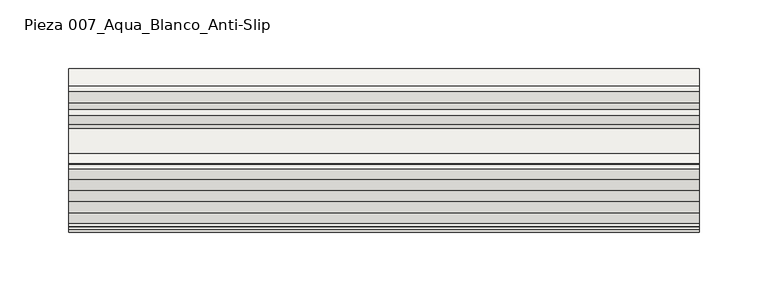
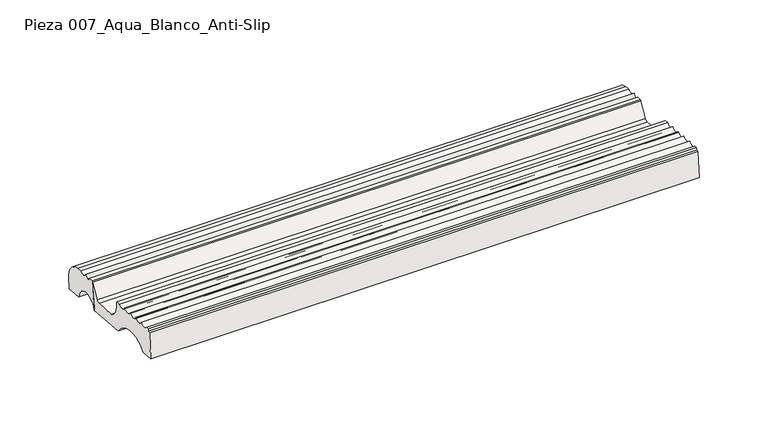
"""IFC4 building model written with IfcOpenShell, lengths in millimetres: slab geometry, ROSA GRES_007 : Pieza 007_Aqua_Blanco_Anti-Slip."""

from ifc_helpers import new_model, si_unit, point, frame, frame_2d, origin, place, context, project, spatial, polyline, circle_curve, trimmed, segment, composite_curve, outline, extrude, source, transform, mapped, element, save


def pieza_007_aqua_blanco_anti_slip_305f16b2(model_context):
    return source(origin(), model_context, "Body", "SweptSolid", [
        extrude(outline(composite_curve([segment(trimmed(circle_curve(frame_2d((-25.9545763, 173.0767428)), 11.6464304), [point((-14.3742659, 174.3159971))], [point((-37.1820416, 176.172444))], True, "CARTESIAN"), True, "CONTINUOUS"), segment(polyline([(-37.1820416, 176.172444), (-33.8762309, 200.4746837), (-29.9345538, 200.1538709)]), True, "CONTINUOUS"), segment(trimmed(circle_curve(frame_2d((-27.3971937, 201.142641)), 2.7232081), [point((-29.9345538, 200.1538709))], [point((-24.7247274, 200.6193952))], True, "CARTESIAN"), True, "CONTINUOUS"), segment(trimmed(circle_curve(frame_2d((-20.3008643, 202.7650351)), 4.9167404), [point((-24.7247274, 200.6193952))], [point((-16.9364731, 199.1796191))], True, "CARTESIAN"), True, "CONTINUOUS"), segment(polyline([(-16.9364731, 199.1796191), (-12.7748841, 198.875801)]), True, "CONTINUOUS"), segment(trimmed(circle_curve(frame_2d((-15.1536138, 183.7870899)), 15.2750633), [point((-12.7748841, 198.875801))], [point((0.0710994, 182.547869))], False, "CARTESIAN"), True, "CONTINUOUS"), segment(polyline([(0.0710994, 182.547869), (-0.6896004, 173.202129), (-14.3742659, 174.3159971)]), True, "CONTINUOUS")], self_intersect=False)), frame((0.0, 0.0, 0.0), z_axis=(1.0, 0.0, 0.0), x_axis=(0.0, 1.0, 0.0)), (0.0, 0.0, 1.0), 460.0),
        extrude(outline(composite_curve([segment(trimmed(circle_curve(frame_2d((-91.1625174, 167.3774726)), 22.5372595), [point((-71.8498608, 178.9942432))], [point((-108.342302, 181.9645582))], True, "CARTESIAN"), True, "CONTINUOUS"), segment(polyline([(-108.342302, 181.9645582), (-119.2900344, 182.8556525), (-117.4809059, 205.0820876), (-115.5338707, 204.9236084), (-115.3491545, 207.1930072), (-113.0660814, 207.0070959)]), True, "CONTINUOUS"), segment(trimmed(circle_curve(frame_2d((-109.1074243, 209.7932705)), 4.8408403), [point((-113.0660814, 207.0070959))], [point((-105.2742048, 206.836894))], True, "CARTESIAN"), True, "CONTINUOUS"), segment(trimmed(circle_curve(frame_2d((-100.9933064, 209.1504161)), 4.8660534), [point((-105.2742048, 206.836894))], [point((-97.1292049, 206.1928503))], True, "CARTESIAN"), True, "CONTINUOUS"), segment(trimmed(circle_curve(frame_2d((-92.9342908, 208.0451437)), 4.5856619), [point((-97.1292049, 206.1928503))], [point((-89.0833894, 205.555394))], True, "CARTESIAN"), True, "CONTINUOUS"), segment(trimmed(circle_curve(frame_2d((-84.8780848, 207.3839748)), 4.5856619), [point((-89.0833894, 205.555394))], [point((-81.0271834, 204.8942251))], True, "CARTESIAN"), True, "CONTINUOUS"), segment(trimmed(circle_curve(frame_2d((-76.8218788, 206.722806)), 4.5856619), [point((-81.0271834, 204.8942251))], [point((-73.3820924, 203.6902881))], True, "CARTESIAN"), True, "CONTINUOUS"), segment(polyline([(-73.3820924, 203.6902881), (-69.6579726, 203.3871621), (-69.3023399, 198.236672)]), True, "CONTINUOUS"), segment(trimmed(circle_curve(frame_2d((-57.0579989, 199.0821231)), 12.2734948), [point((-69.3023399, 198.236672))], [point((-61.867532, 187.7902205))], True, "CARTESIAN"), True, "CONTINUOUS"), segment(polyline([(-61.867532, 187.7902205), (-43.8250834, 186.3216491)]), True, "CONTINUOUS"), segment(trimmed(circle_curve(frame_2d((-43.5817022, 189.3117604)), 3.0), [point((-43.8250834, 186.3216491))], [point((-40.9402045, 187.8896178))], True, "CARTESIAN"), True, "CONTINUOUS"), segment(trimmed(circle_curve(frame_2d((-106.9597263, 233.2212806)), 80.084561), [point((-40.9402045, 187.8896178))], [point((-33.8762309, 200.4746837))], True, "CARTESIAN"), True, "CONTINUOUS"), segment(polyline([(-33.8762309, 200.4746837), (-37.1820416, 176.172444), (-71.8498608, 178.9942432)]), True, "CONTINUOUS")], self_intersect=False)), frame((0.0, 0.0, 0.0), z_axis=(1.0, 0.0, 0.0), x_axis=(0.0, 1.0, 0.0)), (0.0, 0.0, 1.0), 460.0),
    ])


if __name__ == "__main__":
    model = new_model("IFC4")
    model_context = context("Model", 3, world=origin())
    ifc_project = project(units=[si_unit("LENGTHUNIT", "METRE", prefix="MILLI")], contexts=[model_context])
    site = spatial("IfcSite", under=ifc_project)
    building = spatial("IfcBuilding", under=site)
    placement = place(None, origin())
    pieza_007_aqua_blanco_anti_slip_shape = pieza_007_aqua_blanco_anti_slip_305f16b2(model_context)
    element("IfcSlab", 1, ObjectType="ROSA GRES_007 : Pieza 007_Aqua_Blanco_Anti-Slip", at=placement, inside=building, context=model_context, shape_type="MappedRepresentation", body=[
        mapped(pieza_007_aqua_blanco_anti_slip_shape, transform((0.0, 0.0, 0.0), x_axis=(1.0, 0.0, 0.0), y_axis=(0.0, 1.0, 0.0), z_axis=(0.0, 0.0, 1.0))),
    ])
    save(model, "model.ifc")
